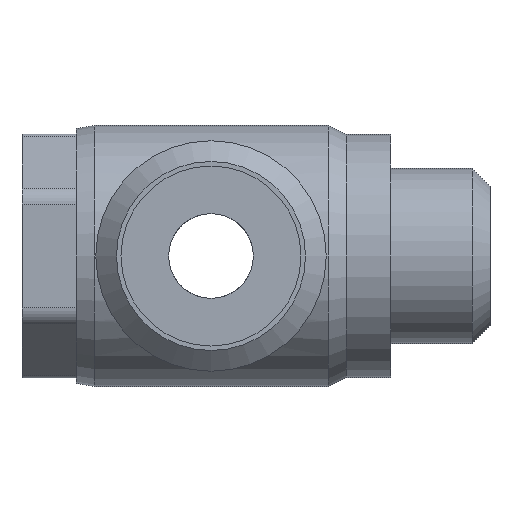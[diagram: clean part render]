
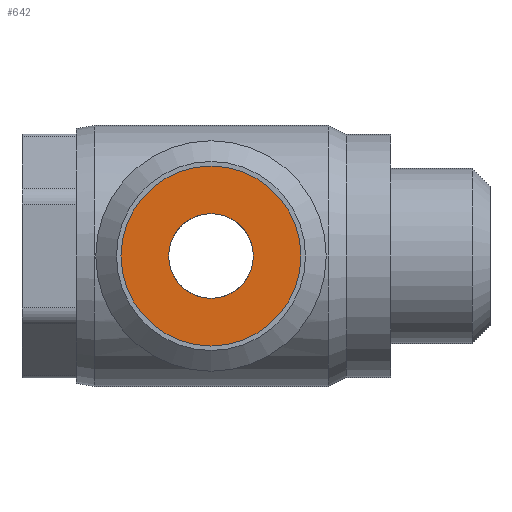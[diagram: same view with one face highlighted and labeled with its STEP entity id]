
A CAD part, left-side view. The second image highlights one B-rep face of the part: STEP entity #642.
In plain terms, the highlighted planar face has unit normal (-1, 0, 0).
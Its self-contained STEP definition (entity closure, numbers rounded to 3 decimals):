
#121=PLANE($,#724);
#155=FACE_BOUND($,#267,.T.);
#156=FACE_BOUND($,#268,.T.);
#267=EDGE_LOOP($,(#577));
#268=EDGE_LOOP($,(#578));
#294=CIRCLE($,#666,2.349);
#321=CIRCLE($,#723,5.);
#338=VERTEX_POINT($,#1032);
#379=VERTEX_POINT($,#1222);
#396=EDGE_CURVE($,#338,#338,#294,.T.);
#449=EDGE_CURVE($,#379,#379,#321,.T.);
#577=ORIENTED_EDGE($,*,*,#396,.T.);
#578=ORIENTED_EDGE($,*,*,#449,.T.);
#642=ADVANCED_FACE($,(#155,#156),#121,.T.);
#666=AXIS2_PLACEMENT_3D($,#1033,#766,#767);
#723=AXIS2_PLACEMENT_3D($,#1223,#904,#905);
#724=AXIS2_PLACEMENT_3D($,#1224,#906,#907);
#766=DIRECTION('center_axis',(1.,0.,0.));
#767=DIRECTION('ref_axis',(0.,1.,0.));
#904=DIRECTION('center_axis',(-1.,0.,0.));
#905=DIRECTION('ref_axis',(0.,-1.,0.));
#906=DIRECTION('center_axis',(-1.,0.,0.));
#907=DIRECTION('ref_axis',(0.,0.,-1.));
#1032=CARTESIAN_POINT('',(-23.5,-2.349,0.));
#1033=CARTESIAN_POINT('Origin',(-23.5,0.,0.));
#1222=CARTESIAN_POINT('',(-23.5,-5.,0.));
#1223=CARTESIAN_POINT('Origin',(-23.5,0.,0.));
#1224=CARTESIAN_POINT('Origin',(-23.5,-2.5,0.));
